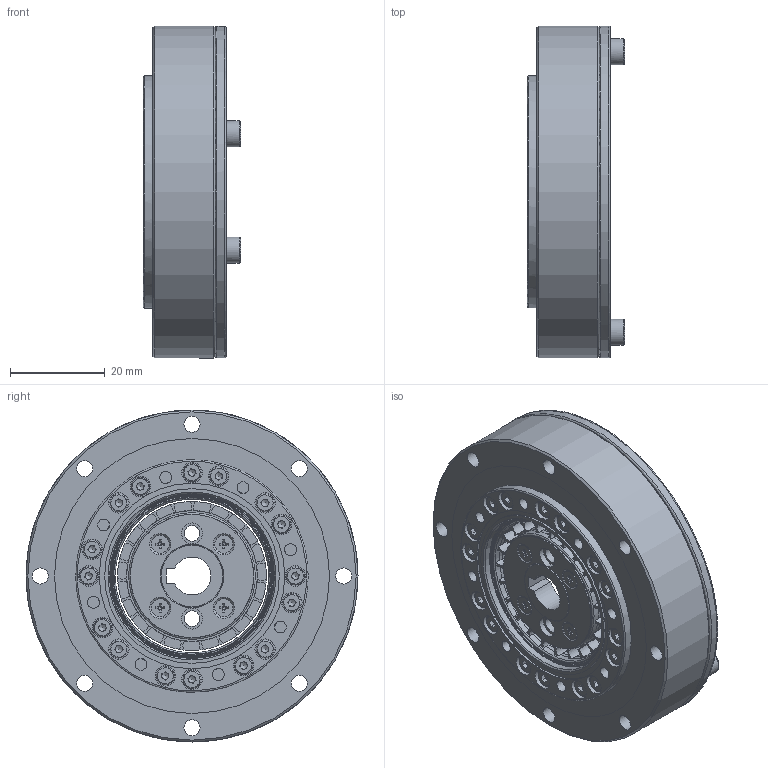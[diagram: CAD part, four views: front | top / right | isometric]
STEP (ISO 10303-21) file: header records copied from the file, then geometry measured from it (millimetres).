
FILE_DESCRIPTION (( 'STEP AP203' ), '1' );
FILE_NAME ('LHD-14-XXX-C-I-S0.STEP', '2025-01-08T10:27:38', ( '' ), ( '' ), 'SwSTEP 2.0', 'SolidWorks 2023', '' );
FILE_SCHEMA (( 'CONFIG_CONTROL_DESIGN' ));
Length unit declared in the file: millimetre
Products named in the file (1): LHD-14-XXX-C-I-S0
Bounding box: 20.5 x 70 x 70 mm (x, y, z)
Volume: 41374.5 mm3; surface area: 43203.2 mm2
Topology: 32 solids, 32 shells, 907 faces, 2159 edges, 1367 vertices
Faces by surface type: plane 466, cylinder 229, bspline 108, cone 104
Full cylindrical faces by diameter (mm): 1.6 x20, 2 x20, 2.4 x20, 2.5 x12, 3 x2, 3.3 x2, 3.4 x8, 3.5 x12, 3.8 x20, 4.3 x16, 4.4 x2, 5.5 x2, 13 x2, 23.5 x2, 24.1 x1, 25.07 x1, 25.5 x1, 26 x1, 26.5 x1, 26.63 x2, 27.6 x1, 29.5 x1, 31.4 x1, 32.4 x2, 33.8 x1, 33.9 x1, 34.6 x1, 34.8 x1, 35.5 x1, 36 x1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
Entity records: 29776 total; most frequent: CARTESIAN_POINT 10903, DIRECTION 3908, ORIENTED_EDGE 3390, EDGE_CURVE 1695, AXIS2_PLACEMENT_3D 1615, EDGE_LOOP 1422, VERTEX_POINT 1235, FACE_OUTER_BOUND 1128
